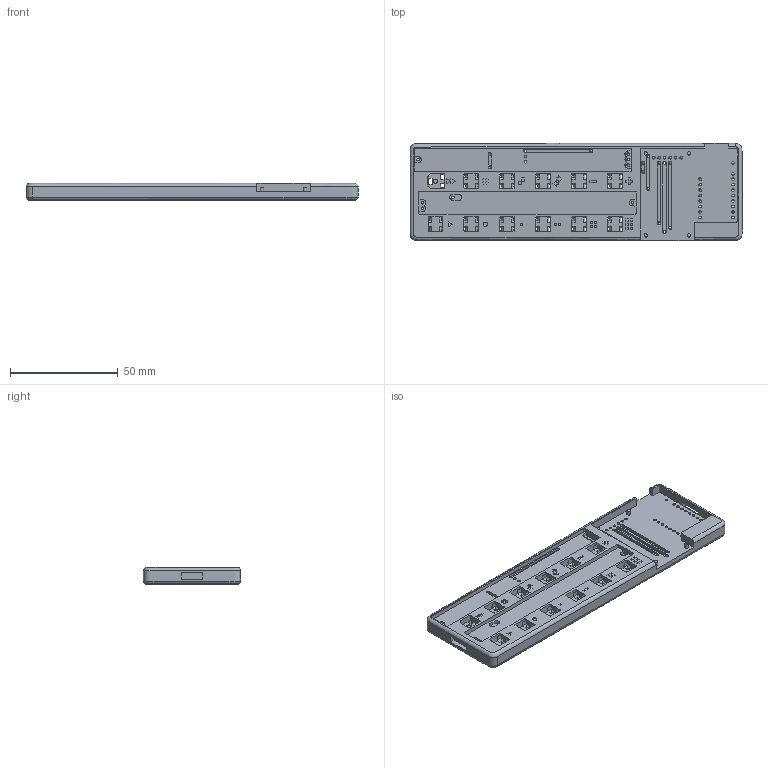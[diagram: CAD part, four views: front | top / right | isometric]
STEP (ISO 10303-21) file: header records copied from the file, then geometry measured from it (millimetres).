
FILE_DESCRIPTION(/* description */ (''),/* implementation_level */ '2;1');
FILE_NAME(/* name */ 'leet_sequencer_base',/* time_stamp */ '2020-11-13T19:58:40+01:00',/* author */ (''),/* organization */ (''),/* preprocessor_version */ 'ST-DEVELOPER v10',/* originating_system */ '',/* authorisation */ '');
FILE_SCHEMA (('CONFIG_CONTROL_DESIGN'));
Length unit declared in the file: millimetre
Products named in the file (1): 1
Bounding box: 154 x 45 x 8 mm (x, y, z)
Surface area: 27821 mm2 (no closed solid volume)
Topology: 0 solids, 1 shells, 1651 faces, 4597 edges, 2888 vertices
Faces by surface type: plane 1113, bspline 538
Entity records: 86391 total; most frequent: CARTESIAN_POINT 56833, ORIENTED_EDGE 9157, EDGE_CURVE 4586, B_SPLINE_CURVE_WITH_KNOTS 3949, VERTEX_POINT 2888, EDGE_LOOP 1823, ADVANCED_FACE 1649, FACE_OUTER_BOUND 1649
